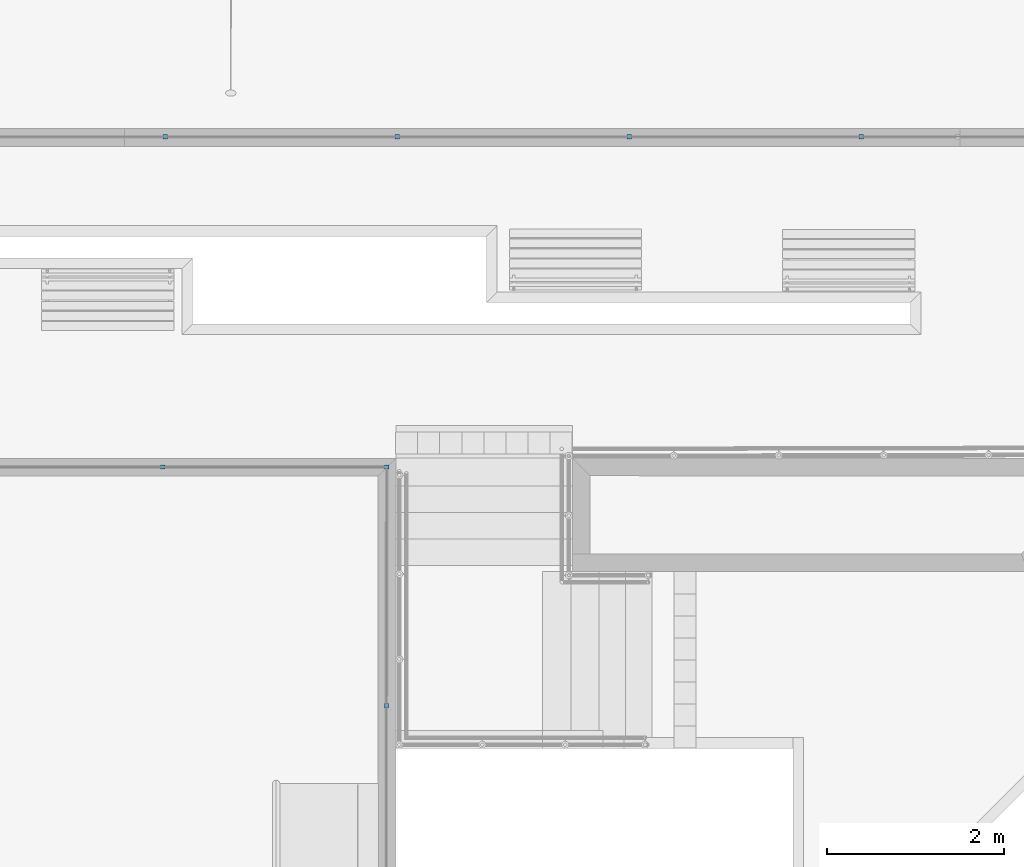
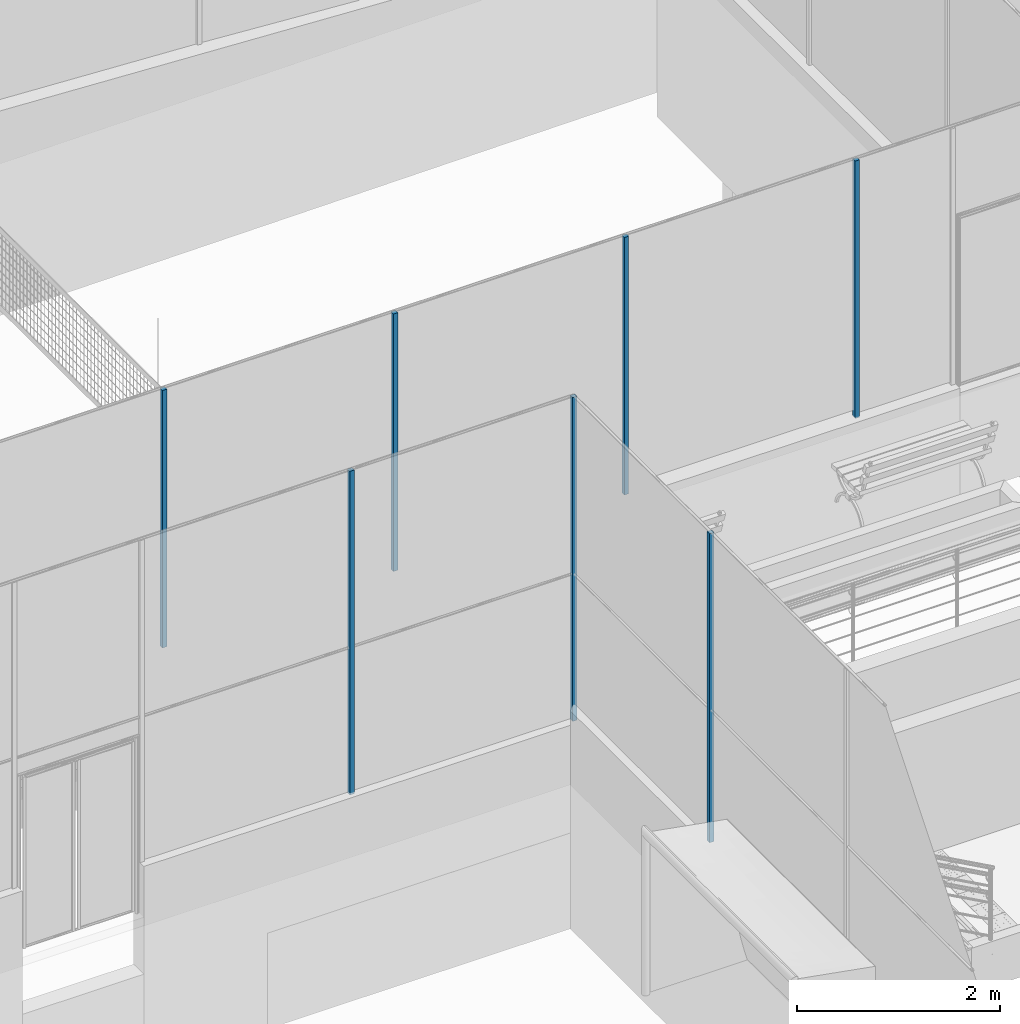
# One storey, part 6 of 237: 7 columns.
"""IFC2X3 building model written with IfcOpenShell, lengths in millimetres."""

from ifc_helpers import new_model, entity, si_unit, converted_unit, derived_unit, money_unit, direction, frame, origin_with_axes, origin_2d_with_axis, place, context, subcontext, project, spatial, rectangle, extrude, material, type_object, element, save


model = new_model("IFC2X3")

# Units and contexts
model_context = context("Model", 3, precision=0.01, world=origin_with_axes(), true_north=direction((0.0, 1.0)))
body_context = subcontext(model_context, "Body", "Model", "MODEL_VIEW")
ifc_project = project(units=[si_unit("LENGTHUNIT", "METRE", prefix="MILLI"), si_unit("AREAUNIT", "SQUARE_METRE"), si_unit("VOLUMEUNIT", "CUBIC_METRE"), converted_unit("PLANEANGLEUNIT", "DEGREE", entity("IfcPlaneAngleMeasure", 0.0174532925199), si_unit("PLANEANGLEUNIT", "RADIAN"), dimensions=[0, 0, 0, 0, 0, 0, 0]), money_unit("USD"), converted_unit("TIMEUNIT", "Year", entity("IfcTimeMeasure", 31556926.0), si_unit("TIMEUNIT", "SECOND"), dimensions=[0, 0, 1, 0, 0, 0, 0]), si_unit("MASSUNIT", "GRAM", prefix="KILO"), si_unit("THERMODYNAMICTEMPERATUREUNIT", "DEGREE_CELSIUS"), si_unit("LUMINOUSINTENSITYUNIT", "LUMEN"), si_unit("ENERGYUNIT", "JOULE", prefix="MEGA"), derived_unit("THERMALCONDUCTANCEUNIT", [(si_unit("POWERUNIT", "WATT"), 1), (si_unit("LENGTHUNIT", "METRE"), -1), (si_unit("THERMODYNAMICTEMPERATUREUNIT", "KELVIN"), -1)]), derived_unit("SPECIFICHEATCAPACITYUNIT", [(si_unit("ENERGYUNIT", "JOULE"), 1), (si_unit("MASSUNIT", "GRAM", prefix="KILO"), -1), (si_unit("THERMODYNAMICTEMPERATUREUNIT", "KELVIN"), -1)]), derived_unit("MASSDENSITYUNIT", [(si_unit("MASSUNIT", "GRAM", prefix="KILO"), 1), (si_unit("VOLUMEUNIT", "CUBIC_METRE"), -1)])], contexts=[model_context])

# Site, building, storey
site_placement = place(None, origin_with_axes())
site = spatial("IfcSite", under=ifc_project, at=site_placement, Name="Local", CompositionType="ELEMENT")
building_placement = place(site_placement, origin_with_axes())
building = spatial("IfcBuilding", under=site, at=building_placement, Name="Construção", CompositionType="ELEMENT")
storey_placement = place(building_placement, origin_with_axes())
storey = spatial("IfcBuildingStorey", under=building, at=storey_placement, Name="Pavimento Térreo", CompositionType="ELEMENT", Elevation=0.0)

# Columns
ifc_material = material(Name="Alumínio")
column_type = type_object("IfcColumnType", Name="Alumínio 50 x 50", PredefinedType="NOTDEFINED")
for number, where, z_axis, x_axis, name in (
    (1, (78783.9496932, 27299.0888476, -3427.40377037), (0.0, 0.0, 1.0), (1.0, 0.0, 0.0), "Pil-016"),
    (2, (84041.5070164, 27299.0888476, -3427.40377037), (0.0, 0.0, 1.0), (1.0, 0.0, 0.0), "Pil-016"),
):
    element("IfcColumn", number, at=place(storey_placement, frame(where, z_axis=z_axis, x_axis=x_axis)), inside=storey, type_object=column_type, material=ifc_material, Name=name, context=body_context, shape_type="SweptSolid", body=[
        extrude(rectangle(XDim=50.0, YDim=50.0, at=origin_2d_with_axis()), origin_with_axes(), (0.0, 0.0, 1.0), 3100.0),
    ])
column_1_placement = place(storey_placement, frame((76128.8524328, 23558.4725499, -2919.87700962), z_axis=(0.0, 0.0, 1.0), x_axis=(1.0, 0.0, 0.0)))
element("IfcColumn", 3, at=column_1_placement, inside=storey, type_object=column_type, material=ifc_material, Name="Pil-016", context=body_context, shape_type="SweptSolid", body=[
    extrude(rectangle(XDim=50.0, YDim=50.0, at=origin_2d_with_axis()), origin_with_axes(), (0.0, 0.0, 1.0), 3896.29924652),
])
column_2_placement = place(storey_placement, frame((78664.5773947, 23558.4725499, -2921.09443787), z_axis=(0.0, 0.0, 1.0), x_axis=(1.0, 0.0, 0.0)))
element("IfcColumn", 4, at=column_2_placement, inside=storey, type_object=column_type, material=ifc_material, Name="Pil-016", context=body_context, shape_type="SweptSolid", body=[
    extrude(rectangle(XDim=50.0, YDim=50.0, at=origin_2d_with_axis()), origin_with_axes(), (0.0, 0.0, 1.0), 3897.51667476),
])
column_3_placement = place(storey_placement, frame((78663.6305381, 20855.5970313, -2742.28516207), z_axis=(0.0, 0.0, 1.0), x_axis=(1.0, 0.0, 0.0)))
element("IfcColumn", 5, at=column_3_placement, inside=storey, type_object=column_type, material=ifc_material, Name="Pil-016", context=body_context, shape_type="SweptSolid", body=[
    extrude(rectangle(XDim=50.0, YDim=50.0, at=origin_2d_with_axis()), origin_with_axes(), (0.0, 0.0, 1.0), 3718.70739897),
])
for number, where, z_axis, x_axis, name in (
    (6, (76155.1710316, 27299.0888476, -3427.40377037), (0.0, 0.0, 1.0), (1.0, 0.0, 0.0), "Pil-016"),
    (7, (81412.7283548, 27299.0888476, -3427.40377037), (0.0, 0.0, 1.0), (1.0, 0.0, 0.0), "Pil-016"),
):
    element("IfcColumn", number, at=place(storey_placement, frame(where, z_axis=z_axis, x_axis=x_axis)), inside=storey, type_object=column_type, material=ifc_material, Name=name, context=body_context, shape_type="SweptSolid", body=[
        extrude(rectangle(XDim=50.0, YDim=50.0, at=origin_2d_with_axis()), origin_with_axes(), (0.0, 0.0, 1.0), 3100.0),
    ])

save(model, "model.ifc")
